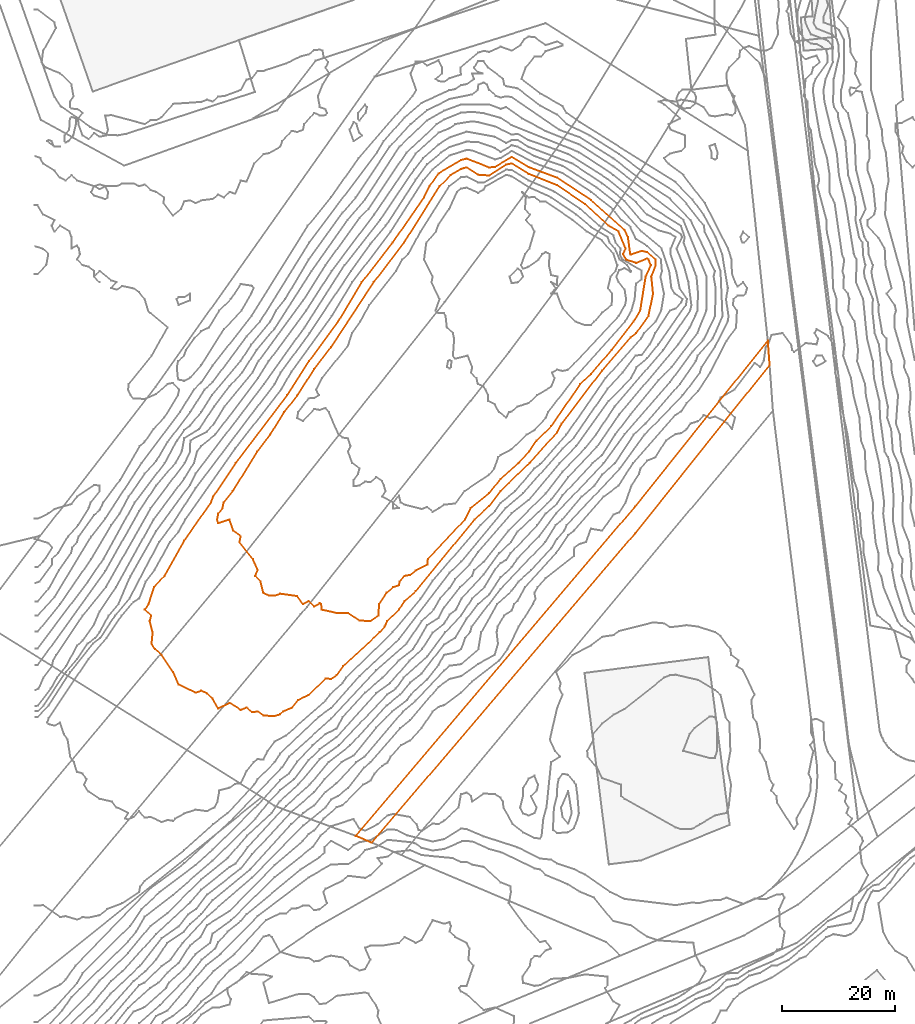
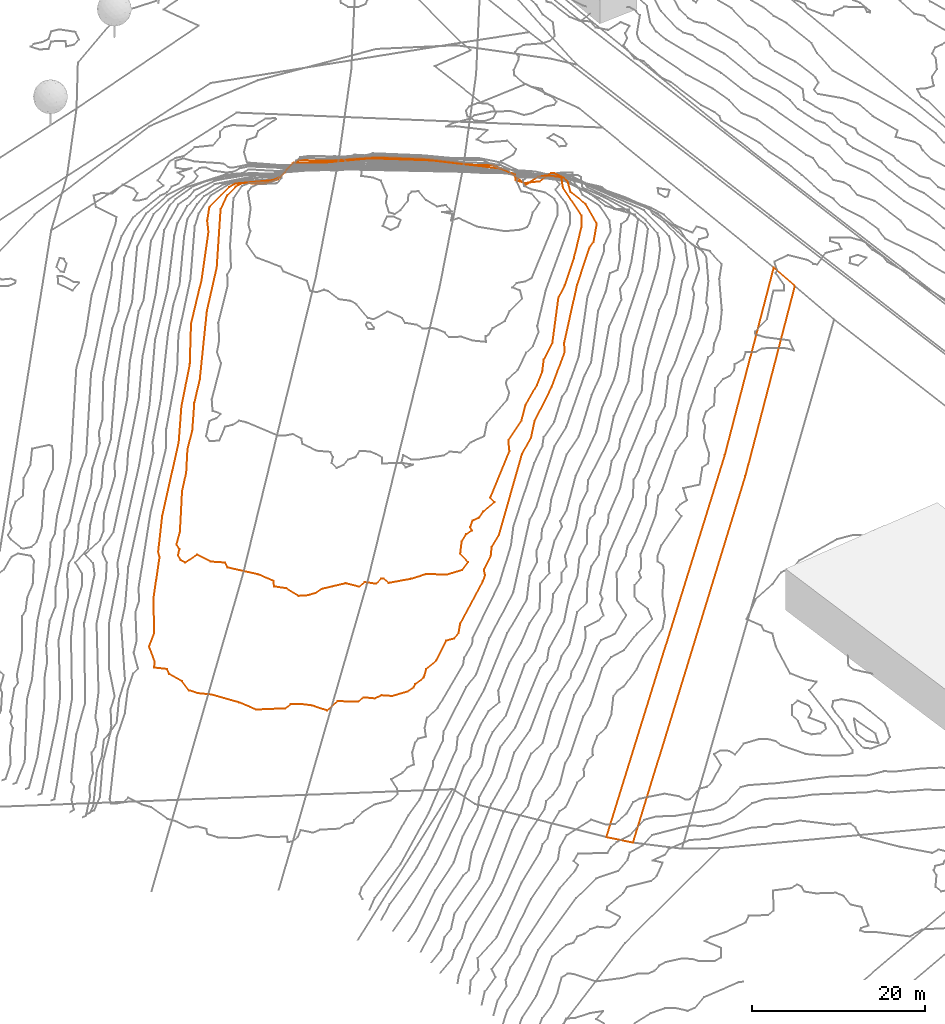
# Not in any storey, part 289 of 419: 3 proxies.
"""IFC2X3 model written with IfcOpenShell, lengths in metres."""

from ifc_helpers import new_model, entity, si_unit, frame, origin_with_axes, place, context, subcontext, project, element, save


model = new_model("IFC2X3")

# Units and contexts
model_context = context("Model", 3, precision=1e-05, world=origin_with_axes())
body_context = subcontext(model_context, "Body", "Model", "MODEL_VIEW")
ifc_project = project(units=[si_unit("AREAUNIT", "SQUARE_METRE"), si_unit("LENGTHUNIT", "METRE")], contexts=[model_context])

# Proxies
proxy_1_placement = place(None, frame((56.4120204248, 693.8476909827, 18.2620601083), z_axis=(0.0, 0.0, 1.0), x_axis=(1.0, 0.0, 0.0)))
element("IfcBuildingElementProxy", 1, at=proxy_1_placement, Name="Cadastre 388", ObjectType="NOTDEFINED", context=body_context, shape_type="GeometricCurveSet", body=[
    entity("IfcGeometricCurveSet", [entity("IfcPolyline", [entity("IfcCartesianPoint", [73.35, 83.4100000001, 1.6014685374]), entity("IfcCartesianPoint", [49.51, 53.5800000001, 1.1583369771]), entity("IfcCartesianPoint", [2.86, -1.21, -1.0530997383]), entity("IfcCartesianPoint", [0.0, 0.0, 0.0]), entity("IfcCartesianPoint", [49.5299999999, 58.3600000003, 1.2602054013]), entity("IfcCartesianPoint", [73.0299999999, 87.7400000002, 1.6994003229]), entity("IfcCartesianPoint", [73.35, 83.4100000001, 1.6014685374])])]),
])
proxy_2_placement = place(None, frame((31.9015407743, 749.8976909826, 32.0), z_axis=(0.0, 0.0, 1.0), x_axis=(1.0, 0.0, 0.0)))
element("IfcBuildingElementProxy", 2, at=proxy_2_placement, Name="Contour 32.0 m", ObjectType="NOTDEFINED", context=body_context, shape_type="GeometricCurveSet", body=[
    entity("IfcGeometricCurveSet", [entity("IfcPolyline", [entity("IfcCartesianPoint", [27.1904839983, -18.0, 0.0]), entity("IfcCartesianPoint", [25.1904796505, -17.9411751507, 0.0]), entity("IfcCartesianPoint", [23.1904796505, -16.6363573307, 0.0]), entity("IfcCartesianPoint", [21.1904796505, -16.5999999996, 0.0]), entity("IfcCartesianPoint", [18.5238129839, -16.0, 0.0]), entity("IfcCartesianPoint", [18.4404915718, -15.0, 0.0]), entity("IfcCartesianPoint", [18.1904796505, -14.8571428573, 0.0]), entity("IfcCartesianPoint", [17.1904796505, -15.4285558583, 0.0]), entity("IfcCartesianPoint", [16.1904796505, -14.5000124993, 0.0]), entity("IfcCartesianPoint", [15.1904796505, -15.000016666, 0.0]), entity("IfcCartesianPoint", [14.1904796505, -13.5999847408, 0.0]), entity("IfcCartesianPoint", [11.1904796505, -13.1666454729, 0.0]), entity("IfcCartesianPoint", [10.1904796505, -13.5294124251, 0.0]), entity("IfcCartesianPoint", [9.1904796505, -13.5000071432, 0.0]), entity("IfcCartesianPoint", [8.1904796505, -13.0714178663, 0.0]), entity("IfcCartesianPoint", [7.6904671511, -11.0, 0.0]), entity("IfcCartesianPoint", [6.6904546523, -10.0, 0.0]), entity("IfcCartesianPoint", [7.1904596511, -9.0, 0.0]), entity("IfcCartesianPoint", [6.3333367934, -7.0, 0.0]), entity("IfcCartesianPoint", [3.9405154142, -4.0, 0.0]), entity("IfcCartesianPoint", [4.1904596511, -3.0, 0.0]), entity("IfcCartesianPoint", [2.8571533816, -2.0, 0.0]), entity("IfcCartesianPoint", [2.1904796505, -3.33302e-05, 0.0]), entity("IfcCartesianPoint", [0.1904796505, -0.666666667, 0.0]), entity("IfcCartesianPoint", [0.0, 0.0, 0.0]), entity("IfcCartesianPoint", [0.1904765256, 1.0, 0.0]), entity("IfcCartesianPoint", [0.9632096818, 2.0, 0.0]), entity("IfcCartesianPoint", [1.1428595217, 3.0, 0.0]), entity("IfcCartesianPoint", [2.7711232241, 5.0, 0.0]), entity("IfcCartesianPoint", [7.0995685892, 12.0, 0.0]), entity("IfcCartesianPoint", [9.3856005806, 15.0, 0.0]), entity("IfcCartesianPoint", [11.8635591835, 19.0, 0.0]), entity("IfcCartesianPoint", [14.1904796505, 21.923075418, 0.0]), entity("IfcCartesianPoint", [17.1904796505, 26.645160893, 0.0]), entity("IfcCartesianPoint", [20.1904796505, 30.5588223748, 0.0]), entity("IfcCartesianPoint", [27.730480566, 42.0, 0.0]), entity("IfcCartesianPoint", [33.0870293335, 49.0, 0.0]), entity("IfcCartesianPoint", [39.3865587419, 59.0, 0.0]), entity("IfcCartesianPoint", [41.3809556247, 61.0, 0.0]), entity("IfcCartesianPoint", [43.1904796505, 62.0819661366, 0.0]), entity("IfcCartesianPoint", [44.1904796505, 62.3333323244, 0.0]), entity("IfcCartesianPoint", [46.1904796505, 61.0317467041, 0.0]), entity("IfcCartesianPoint", [48.1904796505, 60.9029855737, 0.0]), entity("IfcCartesianPoint", [51.1904796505, 62.8440363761, 0.0]), entity("IfcCartesianPoint", [52.1904796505, 63.0574704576, 0.0]), entity("IfcCartesianPoint", [55.1904796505, 61.1999982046, 0.0]), entity("IfcCartesianPoint", [60.1904796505, 59.1805567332, 0.0]), entity("IfcCartesianPoint", [65.1904796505, 55.8181810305, 0.0]), entity("IfcCartesianPoint", [69.3456523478, 52.0, 0.0]), entity("IfcCartesianPoint", [71.1011949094, 51.0, 0.0]), entity("IfcCartesianPoint", [72.3571455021, 48.0, 0.0]), entity("IfcCartesianPoint", [71.902343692, 47.0, 0.0]), entity("IfcCartesianPoint", [72.4761947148, 46.0, 0.0]), entity("IfcCartesianPoint", [74.1904796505, 45.4179097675, 0.0]), entity("IfcCartesianPoint", [76.1904796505, 46.2258058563, 0.0]), entity("IfcCartesianPoint", [76.4497379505, 46.0, 0.0]), entity("IfcCartesianPoint", [76.8250954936, 45.0, 0.0]), entity("IfcCartesianPoint", [75.9001564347, 43.0, 0.0]), entity("IfcCartesianPoint", [74.9329044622, 37.0, 0.0]), entity("IfcCartesianPoint", [73.7443254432, 35.0, 0.0]), entity("IfcCartesianPoint", [69.8504807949, 30.0, 0.0]), entity("IfcCartesianPoint", [66.1904796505, 25.75, 0.0]), entity("IfcCartesianPoint", [64.3256131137, 24.0, 0.0]), entity("IfcCartesianPoint", [59.1904796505, 16.4999980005, 0.0]), entity("IfcCartesianPoint", [56.5817838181, 14.0, 0.0]), entity("IfcCartesianPoint", [55.2422018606, 12.0, 0.0]), entity("IfcCartesianPoint", [53.3699663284, 10.0, 0.0]), entity("IfcCartesianPoint", [50.1904796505, 7.1698119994, 0.0]), entity("IfcCartesianPoint", [48.1904796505, 4.6382997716, 0.0]), entity("IfcCartesianPoint", [44.9324149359, 2.0, 0.0]), entity("IfcCartesianPoint", [43.9138852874, 0.0, 0.0]), entity("IfcCartesianPoint", [37.3209093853, -7.0, 0.0]), entity("IfcCartesianPoint", [37.3081293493, -8.0, 0.0]), entity("IfcCartesianPoint", [35.1904796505, -9.0399935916, 0.0]), entity("IfcCartesianPoint", [34.1904796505, -9.8461515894, 0.0]), entity("IfcCartesianPoint", [33.1904796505, -10.0000076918, 0.0]), entity("IfcCartesianPoint", [32.3238163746, -11.0, 0.0]), entity("IfcCartesianPoint", [32.1904796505, -11.666666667, 0.0]), entity("IfcCartesianPoint", [31.1904796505, -12.0000099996, 0.0]), entity("IfcCartesianPoint", [30.0238076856, -13.0, 0.0]), entity("IfcCartesianPoint", [28.6904921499, -15.0, 0.0]), entity("IfcCartesianPoint", [28.5750916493, -17.0, 0.0]), entity("IfcCartesianPoint", [27.1904839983, -18.0, 0.0])])]),
])
proxy_3_placement = place(None, frame((19.092009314, 733.8976909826, 31.0), z_axis=(0.0, 0.0, 1.0), x_axis=(1.0, 0.0, 0.0)))
element("IfcBuildingElementProxy", 3, at=proxy_3_placement, Name="Contour 31.0 m", ObjectType="NOTDEFINED", context=body_context, shape_type="GeometricCurveSet", body=[
    entity("IfcGeometricCurveSet", [entity("IfcPolyline", [entity("IfcCartesianPoint", [24.5000277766, -18.0, 0.0]), entity("IfcCartesianPoint", [24.0000111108, -18.500016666, 0.0]), entity("IfcCartesianPoint", [23.0000111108, -18.8461515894, 0.0]), entity("IfcCartesianPoint", [21.0000111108, -18.75, 0.0]), entity("IfcCartesianPoint", [20.0000111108, -18.0000499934, 0.0]), entity("IfcCartesianPoint", [19.0000111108, -18.1666719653, 0.0]), entity("IfcCartesianPoint", [18.0000111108, -17.333333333, 0.0]), entity("IfcCartesianPoint", [17.0000111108, -17.75, 0.0]), entity("IfcCartesianPoint", [15.0000111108, -16.500016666, 0.0]), entity("IfcCartesianPoint", [13.0000111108, -17.5000124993, 0.0]), entity("IfcCartesianPoint", [12.0000111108, -15.75, 0.0]), entity("IfcCartesianPoint", [11.0000111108, -14.8333280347, 0.0]), entity("IfcCartesianPoint", [10.0000111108, -14.333333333, 0.0]), entity("IfcCartesianPoint", [9.0000111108, -14.6999942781, 0.0]), entity("IfcCartesianPoint", [6.0000111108, -13.25, 0.0]), entity("IfcCartesianPoint", [5.0000111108, -11.0000249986, 0.0]), entity("IfcCartesianPoint", [2.9999911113, -8.0, 0.0]), entity("IfcCartesianPoint", [1.8000111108, -7.0, 0.0]), entity("IfcCartesianPoint", [1.2000111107, -6.0, 0.0]), entity("IfcCartesianPoint", [1.4000111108, -4.0, 0.0]), entity("IfcCartesianPoint", [0.8750081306, -2.0, 0.0]), entity("IfcCartesianPoint", [1.1428721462, -1.0, 0.0]), entity("IfcCartesianPoint", [0.0, 0.0, 0.0]), entity("IfcCartesianPoint", [0.6666707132, 1.0, 0.0]), entity("IfcCartesianPoint", [1.6296399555, 4.0, 0.0]), entity("IfcCartesianPoint", [3.4705986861, 6.0, 0.0]), entity("IfcCartesianPoint", [7.0000111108, 12.25, 0.0]), entity("IfcCartesianPoint", [11.7021396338, 19.0, 0.0]), entity("IfcCartesianPoint", [12.0952513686, 20.0, 0.0]), entity("IfcCartesianPoint", [16.0943495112, 26.0, 0.0]), entity("IfcCartesianPoint", [25.2340543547, 38.0, 0.0]), entity("IfcCartesianPoint", [29.0588359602, 44.0, 0.0]), entity("IfcCartesianPoint", [34.2222345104, 51.0, 0.0]), entity("IfcCartesianPoint", [38.4285808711, 58.0, 0.0]), entity("IfcCartesianPoint", [43.8750115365, 65.0, 0.0]), entity("IfcCartesianPoint", [49.4237398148, 73.0, 0.0]), entity("IfcCartesianPoint", [50.4000104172, 75.0, 0.0]), entity("IfcCartesianPoint", [52.0000111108, 77.2711861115, 0.0]), entity("IfcCartesianPoint", [56.0000111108, 79.6567171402, 0.0]), entity("IfcCartesianPoint", [57.0000111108, 79.8787879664, 0.0]), entity("IfcCartesianPoint", [61.0000111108, 78.3207544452, 0.0]), entity("IfcCartesianPoint", [62.0000111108, 78.4311919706, 0.0]), entity("IfcCartesianPoint", [65.0000111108, 80.1914895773, 0.0]), entity("IfcCartesianPoint", [68.0000111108, 78.3809519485, 0.0]), entity("IfcCartesianPoint", [73.0000111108, 76.5061729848, 0.0]), entity("IfcCartesianPoint", [79.0000111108, 72.553845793, 0.0]), entity("IfcCartesianPoint", [85.0000111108, 67.2173905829, 0.0]), entity("IfcCartesianPoint", [85.581406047, 66.0, 0.0]), entity("IfcCartesianPoint", [86.0000111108, 62.8771934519, 0.0]), entity("IfcCartesianPoint", [88.0000111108, 63.5505619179, 0.0]), entity("IfcCartesianPoint", [89.0000111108, 63.304348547, 0.0]), entity("IfcCartesianPoint", [90.4347932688, 62.0, 0.0]), entity("IfcCartesianPoint", [90.5000119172, 61.0, 0.0]), entity("IfcCartesianPoint", [89.7142971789, 59.0, 0.0]), entity("IfcCartesianPoint", [90.0256527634, 56.0, 0.0]), entity("IfcCartesianPoint", [89.1915010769, 52.0, 0.0]), entity("IfcCartesianPoint", [87.0000111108, 48.9696962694, 0.0]), entity("IfcCartesianPoint", [86.0000111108, 48.1851855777, 0.0]), entity("IfcCartesianPoint", [81.0000111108, 42.3846165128, 0.0]), entity("IfcCartesianPoint", [73.8589848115, 33.0, 0.0]), entity("IfcCartesianPoint", [73.0000111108, 31.3999993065, 0.0]), entity("IfcCartesianPoint", [68.1320863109, 26.0, 0.0]), entity("IfcCartesianPoint", [63.0000111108, 21.0444453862, 0.0]), entity("IfcCartesianPoint", [61.0000111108, 18.4000015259, 0.0]), entity("IfcCartesianPoint", [58.3962367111, 16.0, 0.0]), entity("IfcCartesianPoint", [48.0000111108, 3.2826074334, 0.0]), entity("IfcCartesianPoint", [46.0000111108, 1.5357152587, 0.0]), entity("IfcCartesianPoint", [45.0000111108, -2.9411e-06, 0.0]), entity("IfcCartesianPoint", [42.9166761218, -2.0, 0.0]), entity("IfcCartesianPoint", [42.5000132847, -3.0, 0.0]), entity("IfcCartesianPoint", [41.6087069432, -4.0, 0.0]), entity("IfcCartesianPoint", [35.1470676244, -10.0, 0.0]), entity("IfcCartesianPoint", [34.0000111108, -11.5869562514, 0.0]), entity("IfcCartesianPoint", [33.0000111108, -12.2580647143, 0.0]), entity("IfcCartesianPoint", [32.0000111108, -12.2083303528, 0.0]), entity("IfcCartesianPoint", [29.0000111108, -15.100001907, 0.0]), entity("IfcCartesianPoint", [27.125014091, -16.0, 0.0]), entity("IfcCartesianPoint", [26.0000111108, -17.3846119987, 0.0]), entity("IfcCartesianPoint", [24.5000277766, -18.0, 0.0])])]),
])

save(model, "model.ifc")
